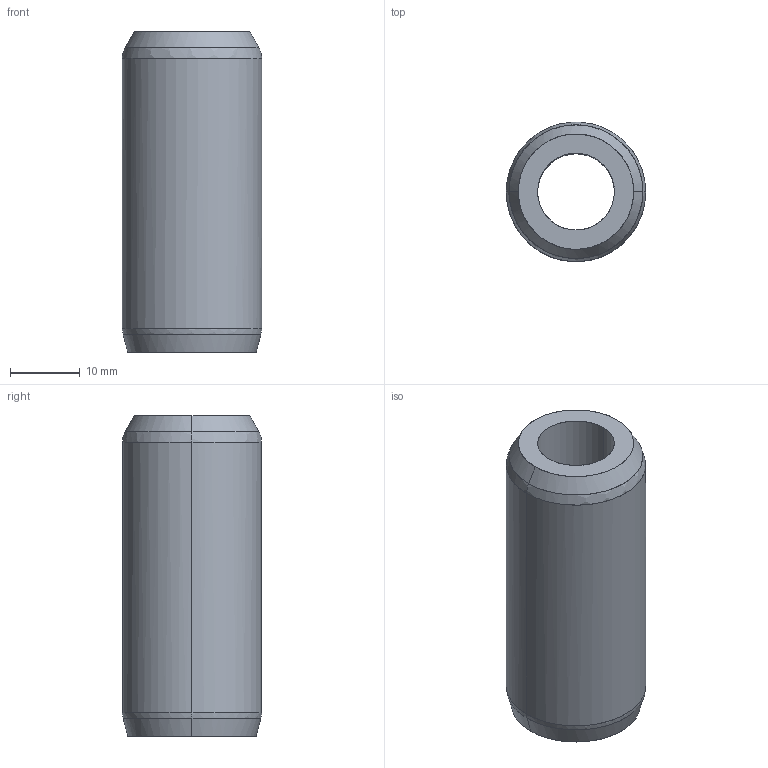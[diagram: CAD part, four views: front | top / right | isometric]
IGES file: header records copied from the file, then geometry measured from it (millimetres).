
Global section: file name: E:\UnigraphicsGraphicData\MISUMI_PRESS-PARTS\IGES\3d_dlpa20_01652_r00.igs; native system: NX V5.0; preprocessor: UGS NX IGES V5.0; author: MISUMI; date: 20110105.160526; units: millimetre
Bounding box: 20 x 19.98 x 46 mm (x, y, z)
Surface area: 4777.4 mm2 (no closed solid volume)
Topology: 0 solids, 0 shells, 14 faces, 80 edges, 80 vertices
Faces by surface type: bspline 14
